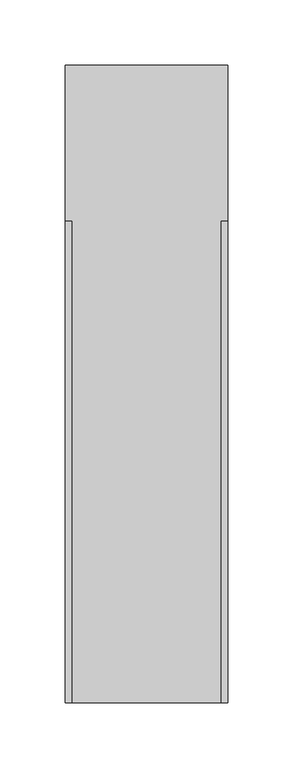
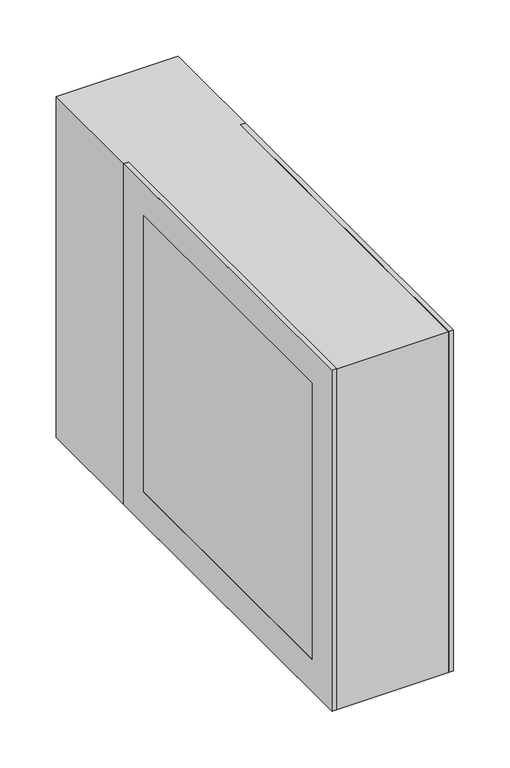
"""IFC4 building model written with IfcOpenShell, lengths in millimetres: damper geometry, Заслонка_VZL : Заслонка_VZL."""

from ifc_helpers import new_model, si_unit, frame, origin, place, context, project, spatial, polyline, outline, extrude, faceted_brep, source, transform, mapped, element, save


def damper_406b02c0(model_context):
    return source(origin(), model_context, "Body", "SolidModel", [
        extrude(outline(polyline([(50.0, -150.0), (-50.0, -150.0), (-50.0, 150.0), (50.0, 150.0), (50.0, -150.0)])), frame((0.0, 0.0, 61.6666667), z_axis=(0.0, 0.0, 1.0), x_axis=(1.0, 0.0, 0.0)), (0.0, 0.0, 1.0), 10.0),
        extrude(outline(polyline([(50.0, -150.0), (-50.0, -150.0), (-50.0, 150.0), (50.0, 150.0), (50.0, -150.0)])), frame((0.0, 0.0, -21.6666667), z_axis=(0.0, 0.0, 1.0), x_axis=(1.0, 0.0, 0.0)), (0.0, 0.0, 1.0), 10.0),
        extrude(outline(polyline([(50.0, -150.0), (-50.0, -150.0), (-50.0, 150.0), (50.0, 150.0), (50.0, -150.0)])), frame((0.0, 0.0, -105.0), z_axis=(0.0, 0.0, 1.0), x_axis=(1.0, 0.0, 0.0)), (0.0, 0.0, 1.0), 10.0),
        extrude(outline(polyline([(50.0, 305.0), (50.0, 150.0), (-50.0, 150.0), (-50.0, 305.0), (50.0, 305.0)])), frame((0.0, 0.0, -150.0), z_axis=(0.0, 0.0, 1.0), x_axis=(1.0, 0.0, 0.0)), (0.0, 0.0, 1.0), 200.0),
        faceted_brep([(62.5, -185.0, 185.0), (62.5, -185.0, -185.0), (62.5, 185.0, -185.0), (62.5, 185.0, 185.0), (62.5, -150.0, 150.0), (62.5, 150.0, 150.0), (62.5, 150.0, -150.0), (62.5, -150.0, -150.0), (-62.5, -185.0, 185.0), (-62.5, 185.0, 185.0), (-62.5, 185.0, -185.0), (-62.5, -185.0, -185.0), (-62.5, -150.0, 150.0), (-62.5, -150.0, -150.0), (-62.5, 150.0, -150.0), (-62.5, 150.0, 150.0), (57.5, -185.0, 185.0), (57.5, -185.0, -185.0), (-57.5, -185.0, -185.0), (-57.5, -185.0, 185.0), (57.5, 185.0, -185.0), (-57.5, 185.0, -185.0), (57.5, 185.0, 185.0), (-57.5, 185.0, 185.0), (57.5, 155.0, 155.0), (57.5, -155.0, 155.0), (57.5, -155.0, -155.0), (57.5, 155.0, -155.0), (-57.5, 155.0, 155.0), (-57.5, 155.0, -155.0), (-57.5, -155.0, -155.0), (-57.5, -155.0, 155.0)], [[[0, 1, 2, 3], [4, 5, 6, 7]], [[8, 9, 10, 11], [12, 13, 14, 15]], [[1, 0, 16, 17]], [[8, 11, 18, 19]], [[2, 1, 17, 20]], [[11, 10, 21, 18]], [[3, 2, 20, 22]], [[10, 9, 23, 21]], [[0, 3, 22, 16]], [[9, 8, 19, 23]], [[17, 16, 22, 20], [24, 25, 26, 27]], [[19, 18, 21, 23], [28, 29, 30, 31]], [[24, 27, 29, 28]], [[27, 26, 30, 29]], [[26, 25, 31, 30]], [[25, 24, 28, 31]], [[5, 4, 12, 15]], [[6, 5, 15, 14]], [[7, 6, 14, 13]], [[4, 7, 13, 12]]]),
        extrude(outline(polyline([(62.5, 305.0), (62.5, -185.0), (-62.5, -185.0), (-62.5, 305.0), (62.5, 305.0)])), frame((0.0, 0.0, -185.0), z_axis=(0.0, 0.0, 1.0), x_axis=(1.0, 0.0, 0.0)), (0.0, 0.0, 1.0), 370.0),
    ])


if __name__ == "__main__":
    model = new_model("IFC4")
    model_context = context("Model", 3, world=origin())
    ifc_project = project(units=[si_unit("LENGTHUNIT", "METRE", prefix="MILLI")], contexts=[model_context])
    site = spatial("IfcSite", under=ifc_project)
    building = spatial("IfcBuilding", under=site)
    placement = place(None, origin())
    damper_shape = damper_406b02c0(model_context)
    element("IfcDamper", 1, ObjectType="Заслонка_VZL : Заслонка_VZL", at=placement, inside=building, context=model_context, shape_type="MappedRepresentation", body=[
        mapped(damper_shape, transform((0.0, 0.0, 0.0), x_axis=(1.0, 0.0, 0.0), y_axis=(0.0, 1.0, 0.0), z_axis=(0.0, 0.0, 1.0))),
    ])
    save(model, "model.ifc")
